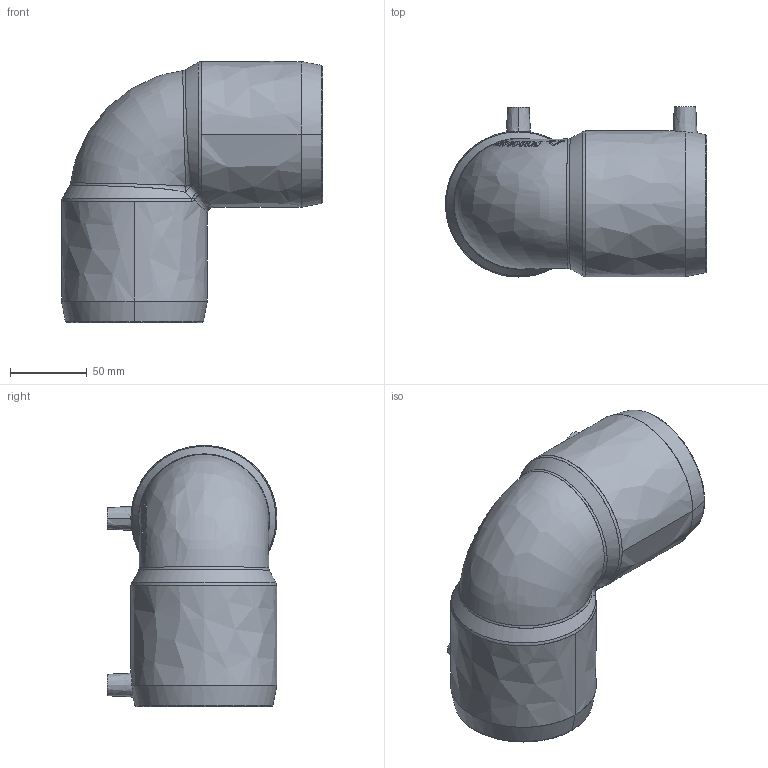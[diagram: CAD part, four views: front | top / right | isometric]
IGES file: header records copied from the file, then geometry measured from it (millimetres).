
Start section:  PTC IGES file: w90_d075_01.igs
Global section: file name: w90_d075_01.igs; native system: Pro/ENGINEER by Parametric Technology Corporation; preprocessor: 2011490; author: mtunjic; organization: Unknown; date: 20130812.092853; units: millimetre
Bounding box: 170 x 110.53 x 170 mm (x, y, z)
Surface area: 122723 mm2 (no closed solid volume)
Topology: 0 solids, 0 shells, 188 faces, 958 edges, 958 vertices
Faces by surface type: bspline 188
